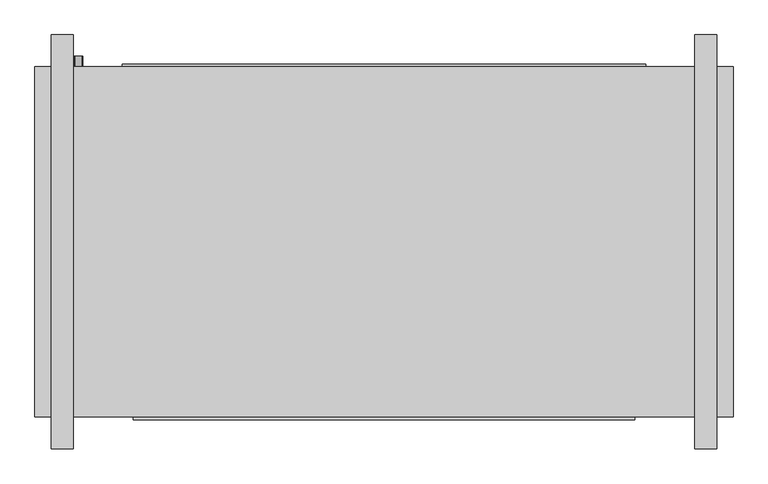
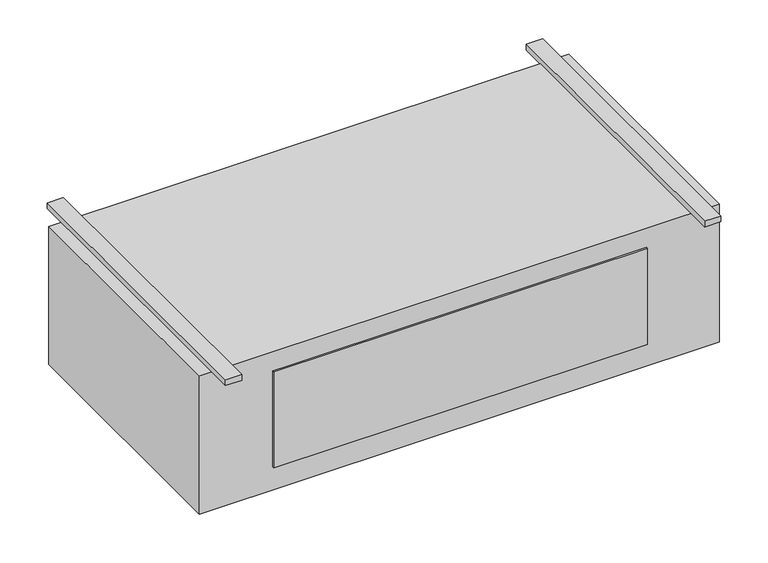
"""IFC4 building model written with IfcOpenShell, lengths in millimetres: proxy geometry, Exposed_High_Capacity_Horizontal_Cabinet_Fan_Coil_Unit_-_42DFA_-_CARRIER_-_2-Pipe_Cool-EHeat_LH_2022 : Size 20 - 277v/60Hz/1Ph - 6 Row 14.0kW."""

from ifc_helpers import new_model, si_unit, point, frame, frame_2d, origin, origin_with_axes, place, context, project, spatial, polyline, circle_curve, trimmed, segment, composite_curve, outline, extrude, source, transform, mapped, element, save


def mechanical_equipment_cf69444b(model_context):
    return source(origin(), model_context, "Body", "SweptSolid", [
        extrude(outline(composite_curve([segment(trimmed(circle_curve(frame_2d((-406.4, -558.8)), 9.525), [point((-406.4, -568.325))], [point((-406.4, -549.275))], False, "CARTESIAN"), True, "CONTINUOUS"), segment(trimmed(circle_curve(frame_2d((-406.4, -558.8)), 9.525), [point((-406.4, -549.275))], [point((-406.4, -568.325))], False, "CARTESIAN"), True, "CONTINUOUS")], self_intersect=False)), frame((0.0, 169.8625, 0.0), z_axis=(0.0, 1.0, 0.0), x_axis=(0.0, 0.0, 1.0)), (0.0, 0.0, 1.0), 25.4),
        extrude(outline(composite_curve([segment(trimmed(circle_curve(frame_2d((-330.2, -558.8)), 7.9375), [point((-330.2, -566.7375))], [point((-330.2, -550.8625))], False, "CARTESIAN"), True, "CONTINUOUS"), segment(trimmed(circle_curve(frame_2d((-330.2, -558.8)), 7.9375), [point((-330.2, -550.8625))], [point((-330.2, -566.7375))], False, "CARTESIAN"), True, "CONTINUOUS")], self_intersect=False)), frame((0.0, 169.8625, 0.0), z_axis=(0.0, 1.0, 0.0), x_axis=(0.0, 0.0, 1.0)), (0.0, 0.0, 1.0), 25.4),
        extrude(outline(composite_curve([segment(trimmed(circle_curve(frame_2d((-254.0, -558.8)), 7.9375), [point((-254.0, -566.7375))], [point((-254.0, -550.8625))], False, "CARTESIAN"), True, "CONTINUOUS"), segment(trimmed(circle_curve(frame_2d((-254.0, -558.8)), 7.9375), [point((-254.0, -550.8625))], [point((-254.0, -566.7375))], False, "CARTESIAN"), True, "CONTINUOUS")], self_intersect=False)), frame((0.0, 169.8625, 0.0), z_axis=(0.0, 1.0, 0.0), x_axis=(0.0, 0.0, 1.0)), (0.0, 0.0, 1.0), 25.4),
        extrude(outline(polyline([(965.2, 169.8625), (965.2, -646.1125), (-660.4, -646.1125), (-660.4, 169.8625), (965.2, 169.8625)])), frame((0.0, 0.0, -457.2), z_axis=(0.0, 0.0, 1.0), x_axis=(1.0, 0.0, 0.0)), (0.0, 0.0, 1.0), 457.2),
        extrude(outline(polyline([(-457.2, 176.2125), (762.0, 176.2125), (762.0, 169.8625), (-457.2, 169.8625), (-457.2, 176.2125)])), frame((0.0, 0.0, -381.0), z_axis=(0.0, 0.0, 1.0), x_axis=(1.0, 0.0, 0.0)), (0.0, 0.0, 1.0), 355.6),
        extrude(outline(polyline([(-571.5, 244.475), (-571.5, -720.725), (-622.3, -720.725), (-622.3, 244.475), (-571.5, 244.475)])), origin_with_axes(), (0.0, 0.0, 1.0), 19.05),
        extrude(outline(polyline([(927.1, 244.475), (927.1, -720.725), (876.3, -720.725), (876.3, 244.475), (927.1, 244.475)])), origin_with_axes(), (0.0, 0.0, 1.0), 19.05),
        extrude(outline(polyline([(736.6, -652.4625), (-431.8, -652.4625), (-431.8, -646.1125), (736.6, -646.1125), (736.6, -652.4625)])), frame((0.0, 0.0, -381.0), z_axis=(0.0, 0.0, 1.0), x_axis=(1.0, 0.0, 0.0)), (0.0, 0.0, 1.0), 317.5),
    ])


if __name__ == "__main__":
    model = new_model("IFC4")
    model_context = context("Model", 3, world=origin())
    ifc_project = project(units=[si_unit("LENGTHUNIT", "METRE", prefix="MILLI")], contexts=[model_context])
    site = spatial("IfcSite", under=ifc_project)
    building = spatial("IfcBuilding", under=site)
    placement = place(None, origin())
    mechanical_equipment_shape = mechanical_equipment_cf69444b(model_context)
    element("IfcBuildingElementProxy", 1, Name="Exposed_High_Capacity_Horizontal_Cabinet_Fan_Coil_Unit_-_42DFA_-_CARRIER_-_2-Pipe_Cool-EHeat_LH_2022 : Size 20 - 277v/60Hz/1Ph - 6 Row 14.0kW", ObjectType="Exposed_High_Capacity_Horizontal_Cabinet_Fan_Coil_Unit_-_42DFA_-_CARRIER_-_2-Pipe_Cool-EHeat_LH_2022 : Size 20 - 277v/60Hz/1Ph - 6 Row 14.0kW", at=placement, inside=building, context=model_context, shape_type="MappedRepresentation", body=[
        mapped(mechanical_equipment_shape, transform((0.0, 0.0, 0.0), x_axis=(1.0, 0.0, 0.0), y_axis=(0.0, 1.0, 0.0), z_axis=(0.0, 0.0, 1.0))),
    ])
    save(model, "model.ifc")
